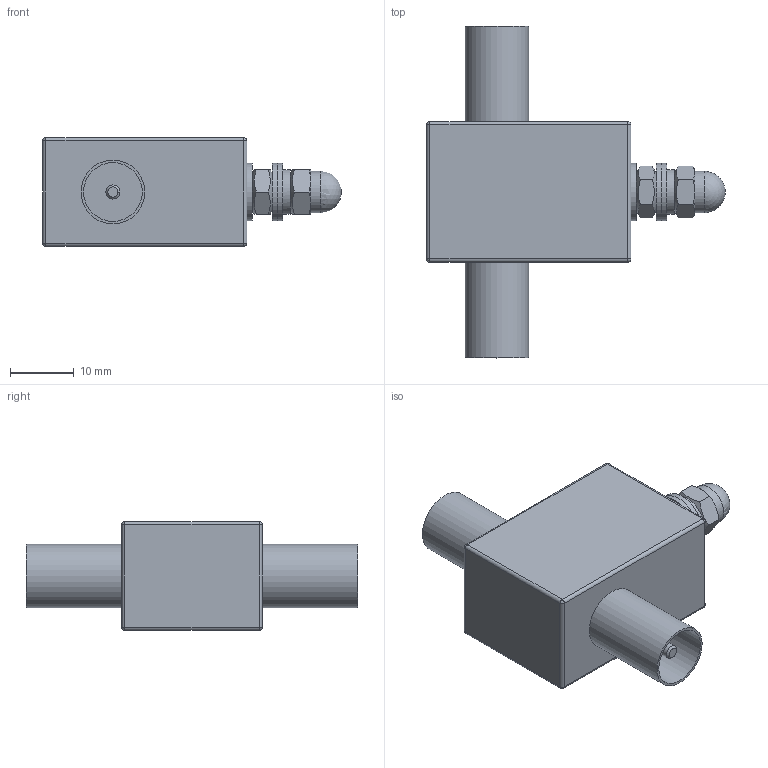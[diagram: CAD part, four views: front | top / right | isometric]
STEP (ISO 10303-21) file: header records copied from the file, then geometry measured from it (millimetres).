
FILE_DESCRIPTION(/* description */ (''),/* implementation_level */ '2;1');
FILE_NAME(/* name */ 'K:\PROJEKTY ROZPRACOVANÉ\MODELY DO KATALOGU\KO\3D - STEP\KO-10P.stp',/* time_stamp */ '2018-05-17T12:21:45+02:00',/* author */ ('admin'),/* organization */ (''),/* preprocessor_version */ 'ST-DEVELOPER v16.1',/* originating_system */ 'Autodesk Inventor 2016',/* authorisation */ '');
FILE_SCHEMA (('AUTOMOTIVE_DESIGN { 1 0 10303 214 3 1 1 }'));
Length unit declared in the file: millimetre
Products named in the file (6): KO-10P; DIN 934 - M4 x 0,7; DIN 7980 - 4; DIN 125 - A 4,3; DIN 1587 - M4 x 0,7; KO-10P_1
Assembly tree (7 placements, depth 2):
  KO-10P_1
    KO-10P
    DIN 934 - M4 x 0,7
    DIN 7980 - 4
    DIN 125 - A 4,3  x3
    DIN 1587 - M4 x 0,7
Bounding box: 46.78 x 52 x 17 mm (x, y, z)
Volume: 13092.4 mm3; surface area: 6428.9 mm2
Topology: 7 solids, 7 shells, 95 faces, 182 edges, 108 vertices
Faces by surface type: plane 40, cylinder 31, cone 15, sphere 9
Full cylindrical faces by diameter (mm): 2.2 x1, 2.5 x1, 3.242 x2, 4 x1, 4.3 x4, 6.5 x1, 9 x3, 9.2 x2, 10 x2
Entity records: 2169 total; most frequent: CARTESIAN_POINT 398, DIRECTION 384, ORIENTED_EDGE 284, AXIS2_PLACEMENT_3D 172, EDGE_CURVE 142, EDGE_LOOP 122, VERTEX_POINT 96, FACE_OUTER_BOUND 87
